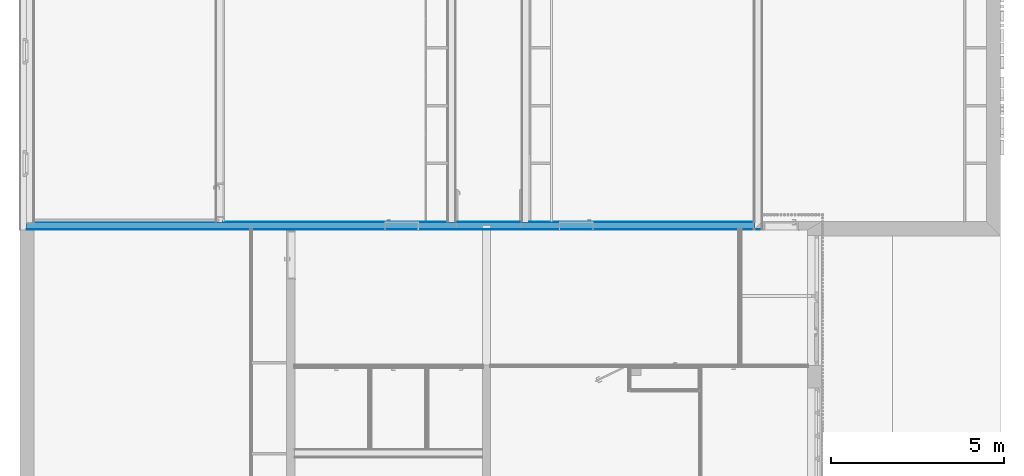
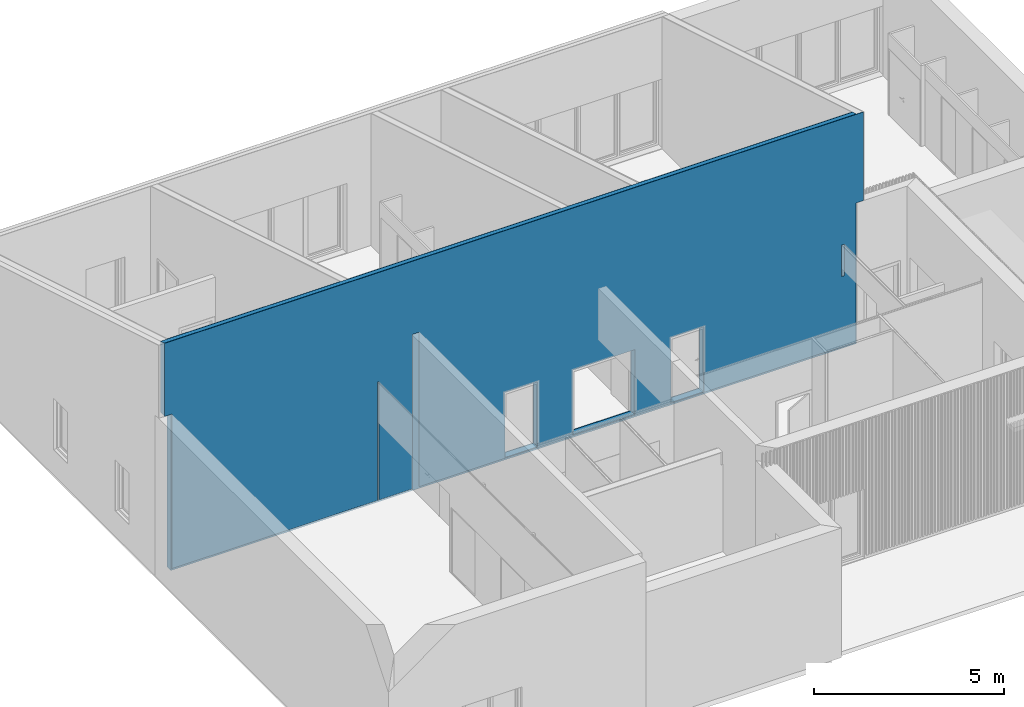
# One storey, part 24 of 34: 3 building element parts, 3 openings, 1 element without a shape of its own.
"""IFC2X3 building model written with IfcOpenShell, lengths in metres."""

from ifc_helpers import new_model, entity, si_unit, converted_unit, derived_unit, money_unit, direction, frame, origin_with_axes, origin_2d_with_axis, place, context, subcontext, project, spatial, polyline, rectangle, outline, extrude, boolean, faceted_brep, material, type_object, element, aggregate, save


model = new_model("IFC2X3")

# Units and contexts
model_context = context("Model", 3, precision=1e-05, world=origin_with_axes(), true_north=direction((0.0, 1.0)))
body_context = subcontext(model_context, "Body", "Model", "MODEL_VIEW")
ifc_project = project(units=[si_unit("LENGTHUNIT", "METRE"), si_unit("AREAUNIT", "SQUARE_METRE"), si_unit("VOLUMEUNIT", "CUBIC_METRE"), converted_unit("PLANEANGLEUNIT", "DEGREE", entity("IfcPlaneAngleMeasure", 0.0174532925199), si_unit("PLANEANGLEUNIT", "RADIAN"), dimensions=[0, 0, 0, 0, 0, 0, 0]), money_unit("CHF"), converted_unit("TIMEUNIT", "Year", entity("IfcTimeMeasure", 31556926.0), si_unit("TIMEUNIT", "SECOND"), dimensions=[0, 0, 1, 0, 0, 0, 0]), si_unit("MASSUNIT", "GRAM", prefix="KILO"), si_unit("THERMODYNAMICTEMPERATUREUNIT", "DEGREE_CELSIUS"), si_unit("LUMINOUSINTENSITYUNIT", "LUMEN"), si_unit("ENERGYUNIT", "JOULE", prefix="MEGA"), derived_unit("THERMALCONDUCTANCEUNIT", [(si_unit("POWERUNIT", "WATT"), 1), (si_unit("LENGTHUNIT", "METRE"), -1), (si_unit("THERMODYNAMICTEMPERATUREUNIT", "KELVIN"), -1)]), derived_unit("SPECIFICHEATCAPACITYUNIT", [(si_unit("ENERGYUNIT", "JOULE"), 1), (si_unit("MASSUNIT", "GRAM", prefix="KILO"), -1), (si_unit("THERMODYNAMICTEMPERATUREUNIT", "KELVIN"), -1)]), derived_unit("MASSDENSITYUNIT", [(si_unit("MASSUNIT", "GRAM", prefix="KILO"), 1), (si_unit("VOLUMEUNIT", "CUBIC_METRE"), -1)])], contexts=[model_context])

# Site, building, storey
site_placement = place(None, origin_with_axes())
site = spatial("IfcSite", under=ifc_project, at=site_placement, Name="Site", CompositionType="ELEMENT")
building_placement = place(site_placement, origin_with_axes())
building = spatial("IfcBuilding", under=site, at=building_placement, Name="Bâtiment", CompositionType="ELEMENT")
storey_placement = place(building_placement, origin_with_axes())
storey = spatial("IfcBuildingStorey", under=building, at=storey_placement, Name="Rez-de-chaussée", CompositionType="ELEMENT", Elevation=0.0)

# Wall, openings, building element parts
wall_type = type_object("IfcWallType", Name="Mur 20cm + enduit 2cm 240", PredefinedType="NOTDEFINED")
wall_placement = place(storey_placement, frame((32.1994697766, 15.07, -0.21), z_axis=(0.0, 0.0, 1.0), x_axis=(-1.0, 0.0, 0.0)))
wall = element("IfcWall", 1, at=wall_placement, inside=storey, type_object=wall_type, Name="MUR_EXT-005")
opening_1_placement = place(wall_placement, frame((5.255, 0.0, 0.21), z_axis=(0.0, 0.0, 1.0), x_axis=(1.0, 0.0, 0.0)))
element("IfcOpeningElement", 2, at=opening_1_placement, cuts=wall, Name="PORTE-PP90 A2 - PF1/2H", context=body_context, shape_type="SweptSolid", body=[
    extrude(rectangle(XDim=1.0, YDim=2.1, at=origin_2d_with_axis()), frame((0.0, -0.24, 1.05), z_axis=(0.0, -1.0, 0.0), x_axis=(1.0, 0.0, 0.0)), (0.0, 0.0, -1.0), 0.72),
    extrude(rectangle(XDim=1.1, YDim=2.15, at=origin_2d_with_axis()), frame((0.0, -0.05, 1.075), z_axis=(0.0, -1.0, 0.0), x_axis=(1.0, 0.0, 0.0)), (0.0, 0.0, 1.0), 0.24),
    extrude(rectangle(XDim=1.09, YDim=2.145, at=origin_2d_with_axis()), frame((0.0, 0.19, 1.0725), z_axis=(0.0, 1.0, 0.0), x_axis=(1.0, 0.0, 0.0)), (0.0, 0.0, 1.0), 0.24),
])
opening_2_placement = place(wall_placement, frame((7.79, 0.0, 0.21), z_axis=(0.0, 0.0, 1.0), x_axis=(1.0, 0.0, 0.0)))
element("IfcOpeningElement", 3, at=opening_2_placement, cuts=wall, Name="PP 90x2 - A2 - PF 1/2H", context=body_context, shape_type="SweptSolid", body=[
    extrude(rectangle(XDim=1.9, YDim=2.1, at=origin_2d_with_axis()), frame((0.0, -0.24, 1.05), z_axis=(0.0, -1.0, 0.0), x_axis=(1.0, 0.0, 0.0)), (0.0, 0.0, -1.0), 0.72),
    extrude(rectangle(XDim=2.0, YDim=2.15, at=origin_2d_with_axis()), frame((0.0, -0.05, 1.075), z_axis=(0.0, -1.0, 0.0), x_axis=(1.0, 0.0, 0.0)), (0.0, 0.0, 1.0), 0.24),
    extrude(rectangle(XDim=1.99, YDim=2.145, at=origin_2d_with_axis()), frame((0.0, 0.19, 1.0725), z_axis=(0.0, 1.0, 0.0), x_axis=(1.0, 0.0, 0.0)), (0.0, 0.0, 1.0), 0.24),
])
opening_3_placement = place(wall_placement, frame((10.3066603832, 0.0, 0.21), z_axis=(0.0, 0.0, 1.0), x_axis=(1.0, 0.0, 0.0)))
element("IfcOpeningElement", 4, at=opening_3_placement, cuts=wall, Name="PORTE-PP90 A2 - PF1/2H", context=body_context, shape_type="SweptSolid", body=[
    extrude(rectangle(XDim=1.0, YDim=2.1, at=origin_2d_with_axis()), frame((0.0, 0.24, 1.05), z_axis=(0.0, -1.0, 0.0), x_axis=(-1.0, 0.0, 0.0)), (0.0, 0.0, 1.0), 0.72),
    extrude(rectangle(XDim=1.1, YDim=2.15, at=origin_2d_with_axis()), frame((0.0, 0.19, 1.075), z_axis=(0.0, -1.0, 0.0), x_axis=(-1.0, 0.0, 0.0)), (0.0, 0.0, -1.0), 0.24),
    extrude(rectangle(XDim=1.09, YDim=2.145, at=origin_2d_with_axis()), frame((0.0, -0.05, 1.0725), z_axis=(0.0, 1.0, 0.0), x_axis=(-1.0, 0.0, 0.0)), (0.0, 0.0, -1.0), 0.24),
])
ifc_material_1 = material(Name="Finition int - Enduit plâtre")
building_element_part_1_placement = place(wall_placement, origin_with_axes())
building_element_part_1 = element("IfcBuildingElementPart", 5, at=building_element_part_1_placement, material=ifc_material_1, Name="Finition int - Enduit plâtre", context=body_context, shape_type="CSG", body=[
    boolean("DIFFERENCE", boolean("DIFFERENCE", boolean("DIFFERENCE", boolean("DIFFERENCE", boolean("DIFFERENCE", boolean("DIFFERENCE", boolean("DIFFERENCE", extrude(outline(polyline([(-0.12, -0.05), (21.34, -0.05), (21.34, -0.03), (-0.12, -0.03), (-0.12, -0.05)])), origin_with_axes(), (0.0, 0.0, 1.0), 7.64), faceted_brep([(21.34, -0.03, 7.64), (21.34, -0.03, 0.0), (-0.12, -0.03, 0.0), (-0.12, -0.03, 7.64), (20.95, -0.03, 5.17), (20.95, -0.03, 7.45421336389), (15.66, -0.03, 7.45421336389), (15.66, -0.03, 0.2), (20.93, -0.03, 0.2), (20.93, -0.03, 5.17), (15.46, -0.03, 0.2), (15.46, -0.03, 7.45421336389), (8.96, -0.03, 7.45421336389), (8.96, -0.03, 0.2), (8.76, -0.03, 0.2), (8.76, -0.03, 7.45421336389), (6.82, -0.03, 7.45421336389), (6.82, -0.03, 0.2), (6.62, -0.03, 0.2), (6.62, -0.03, 7.45421336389), (0.12, -0.03, 7.45421336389), (0.12, -0.03, 0.2), (21.34, -0.05, 7.64), (21.34, -0.05, 0.0), (-0.12, -0.05, 0.0), (-0.12, -0.05, 7.64), (20.95, -0.05, 5.17), (20.95, -0.05, 7.44821336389), (15.66, -0.05, 7.44821336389), (15.66, -0.05, 0.2), (20.93, -0.05, 0.2), (20.93, -0.05, 5.17), (15.46, -0.05, 0.2), (15.46, -0.05, 7.44821336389), (8.96, -0.05, 7.44821336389), (8.96, -0.05, 0.2), (8.76, -0.05, 0.2), (8.76, -0.05, 7.44821336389), (6.82, -0.05, 7.44821336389), (6.82, -0.05, 0.2), (6.62, -0.05, 0.2), (6.62, -0.05, 7.44821336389), (0.12, -0.05, 7.44821336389), (0.12, -0.05, 0.2)], [[[0, 1, 2, 3], [4, 5, 6, 7, 8, 9], [10, 11, 12, 13], [14, 15, 16, 17], [18, 19, 20, 21]], [[22, 23, 1, 0]], [[23, 24, 2, 1]], [[3, 2, 24, 25]], [[3, 25, 22, 0]], [[26, 27, 5, 4]], [[27, 28, 6, 5]], [[28, 29, 7, 6]], [[29, 30, 8, 7]], [[30, 31, 9, 8]], [[31, 26, 4, 9]], [[32, 33, 11, 10]], [[33, 34, 12, 11]], [[34, 35, 13, 12]], [[35, 32, 10, 13]], [[36, 37, 15, 14]], [[37, 38, 16, 15]], [[38, 39, 17, 16]], [[39, 36, 14, 17]], [[40, 41, 19, 18]], [[41, 42, 20, 19]], [[42, 43, 21, 20]], [[43, 40, 18, 21]], [[25, 24, 23, 22], [30, 29, 28, 27, 26, 31], [32, 35, 34, 33], [36, 39, 38, 37], [40, 43, 42, 41]]])), faceted_brep([(9.63, -0.03, 0.21), (9.58, -0.03, 0.21), (9.58, -0.03, 2.81), (9.63, -0.03, 2.81), (9.63, -0.05, 0.21), (9.58, -0.05, 0.21), (9.58, -0.05, 2.81), (9.63, -0.05, 2.81)], [[[0, 1, 2, 3]], [[4, 5, 1, 0]], [[5, 6, 2, 1]], [[6, 7, 3, 2]], [[7, 4, 0, 3]], [[4, 7, 6, 5]]])), faceted_brep([(6.0, -0.03, 0.21), (5.95, -0.03, 0.21), (5.95, -0.03, 2.81), (6.0, -0.03, 2.81), (6.0, -0.05, 0.21), (5.95, -0.05, 0.21), (5.95, -0.05, 2.81), (6.0, -0.05, 2.81)], [[[0, 1, 2, 3]], [[4, 5, 1, 0]], [[5, 6, 2, 1]], [[6, 7, 3, 2]], [[7, 4, 0, 3]], [[4, 7, 6, 5]]])), faceted_brep([(21.34, 0.17, 7.64), (21.34, 0.17, 0.0), (-0.12, 0.17, 0.0), (-0.12, 0.17, 7.64), (21.15, 0.17, 5.17), (21.15, 0.17, 7.51421336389), (0.1, 0.17, 7.51421336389), (0.1, 0.17, 0.13), (20.95, 0.17, 0.13), (20.95, 0.17, 5.17), (21.34, -0.03, 7.64), (21.34, -0.03, 0.0), (-0.12, -0.03, 0.0), (-0.12, -0.03, 7.64), (21.15, -0.03, 5.17), (21.15, -0.03, 7.45421336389), (0.12, -0.03, 7.45421336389), (0.1, -0.03, 7.45421336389), (20.95, -0.03, 7.45421336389), (15.66, -0.03, 7.45421336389), (15.46, -0.03, 7.45421336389), (8.96, -0.03, 7.45421336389), (8.76, -0.03, 7.45421336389), (6.82, -0.03, 7.45421336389), (6.62, -0.03, 7.45421336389), (0.1, -0.03, 0.13), (20.95, -0.03, 0.13), (20.95, 0.0, 0.13), (20.95, 0.0, 5.17), (20.95, -0.03, 5.17)], [[[0, 1, 2, 3], [4, 5, 6, 7, 8, 9]], [[10, 11, 1, 0]], [[11, 12, 2, 1]], [[3, 2, 12, 13]], [[3, 13, 10, 0]], [[14, 15, 5, 4]], [[16, 17, 6, 5, 15, 18, 19, 20, 21, 22, 23, 24]], [[17, 25, 7, 6]], [[25, 26, 27, 8, 7]], [[9, 8, 27, 28]], [[29, 14, 4, 9, 28]], [[13, 12, 11, 10], [26, 25, 17, 16, 24, 23, 22, 21, 20, 19, 18, 15, 14, 29]], [[26, 29, 28, 27]]])), faceted_brep([(14.68, 0.19, 0.21), (14.63, 0.19, 0.21), (14.63, 0.19, 4.01), (14.68, 0.19, 4.01), (14.68, 0.17, 0.21), (14.63, 0.17, 0.21), (14.63, 0.17, 4.01), (14.68, 0.17, 4.01)], [[[0, 1, 2, 3]], [[4, 5, 1, 0]], [[5, 6, 2, 1]], [[6, 7, 3, 2]], [[7, 4, 0, 3]], [[4, 7, 6, 5]]])), faceted_brep([(0.57, 0.19, 2.46), (0.47, 0.19, 2.46), (0.47, 0.19, 3.47022608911), (0.57, 0.19, 3.47022608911), (0.57, 0.17, 2.46), (0.47, 0.17, 2.46), (0.47, 0.17, 3.47022608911), (0.57, 0.17, 3.47022608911)], [[[0, 1, 2, 3]], [[4, 5, 1, 0]], [[5, 6, 2, 1]], [[6, 7, 3, 2]], [[7, 4, 0, 3]], [[4, 7, 6, 5]]])), faceted_brep([(21.34, 0.19, 7.64), (21.34, 0.19, 0.0), (-0.12, 0.19, 0.0), (-0.12, 0.19, 7.64), (21.15, 0.189999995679, 5.17), (21.15, 0.189999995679, 7.52021336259), (-0.1, 0.189999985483, 7.52021335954), (-0.1, 0.189999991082, 4.67), (0.12, 0.189999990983, 4.67), (0.12, 0.189999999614, 0.2), (13.41, 0.19, 0.2), (13.41, 0.19, 5.17), (13.61, 0.19, 5.17), (13.61, 0.19, 0.2), (20.93, 0.19, 0.2), (20.93, 0.19, 5.17), (21.34, 0.17, 7.64), (21.34, 0.17, 0.0), (-0.12, 0.17, 0.0), (-0.12, 0.17, 7.64), (21.15, 0.17, 5.17), (21.15, 0.17, 7.51421336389), (0.1, 0.17, 7.51421336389), (-0.1, 0.17, 7.51421336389), (-0.1, 0.17, 4.67), (0.12, 0.17, 4.67), (0.12, 0.17, 0.2), (13.41, 0.17, 0.2), (13.41, 0.17, 5.17), (13.61, 0.17, 5.17), (13.61, 0.17, 0.2), (20.93, 0.17, 0.2), (20.93, 0.17, 5.17)], [[[0, 1, 2, 3], [4, 5, 6, 7, 8, 9, 10, 11, 12, 13, 14, 15]], [[16, 17, 1, 0]], [[17, 18, 2, 1]], [[3, 2, 18, 19]], [[3, 19, 16, 0]], [[5, 4, 20, 21]], [[22, 23, 6, 5, 21]], [[23, 24, 7, 6]], [[24, 25, 8, 7]], [[25, 26, 9, 8]], [[26, 27, 10, 9]], [[27, 28, 11, 10]], [[28, 29, 12, 11]], [[29, 30, 13, 12]], [[30, 31, 14, 13]], [[31, 32, 15, 14]], [[32, 20, 4, 15]], [[19, 18, 17, 16], [25, 24, 23, 22, 21, 20, 32, 31, 30, 29, 28, 27, 26]]])),
])
ifc_material_2 = material(Name="Béton armé (Coulé)")
building_element_part_2_placement = place(wall_placement, origin_with_axes())
building_element_part_2 = element("IfcBuildingElementPart", 6, at=building_element_part_2_placement, material=ifc_material_2, Name="Béton armé (Coulé)", context=body_context, shape_type="CSG", body=[
    boolean("DIFFERENCE", boolean("DIFFERENCE", boolean("DIFFERENCE", boolean("DIFFERENCE", boolean("DIFFERENCE", boolean("DIFFERENCE", boolean("DIFFERENCE", extrude(outline(polyline([(-0.12, -0.03), (21.34, -0.03), (21.34, 0.17), (-0.12, 0.17), (-0.12, -0.03)])), origin_with_axes(), (0.0, 0.0, 1.0), 7.64), faceted_brep([(21.34, -0.03, 7.64), (21.34, -0.03, 0.0), (-0.12, -0.03, 0.0), (-0.12, -0.03, 7.64), (20.95, -0.03, 5.17), (20.95, -0.03, 7.45421336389), (15.66, -0.03, 7.45421336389), (15.66, -0.03, 0.2), (20.93, -0.03, 0.2), (20.93, -0.03, 5.17), (15.46, -0.03, 0.2), (15.46, -0.03, 7.45421336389), (8.96, -0.03, 7.45421336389), (8.96, -0.03, 0.2), (8.76, -0.03, 0.2), (8.76, -0.03, 7.45421336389), (6.82, -0.03, 7.45421336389), (6.82, -0.03, 0.2), (6.62, -0.03, 0.2), (6.62, -0.03, 7.45421336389), (0.12, -0.03, 7.45421336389), (0.12, -0.03, 0.2), (21.34, -0.05, 7.64), (21.34, -0.05, 0.0), (-0.12, -0.05, 0.0), (-0.12, -0.05, 7.64), (20.95, -0.05, 5.17), (20.95, -0.05, 7.44821336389), (15.66, -0.05, 7.44821336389), (15.66, -0.05, 0.2), (20.93, -0.05, 0.2), (20.93, -0.05, 5.17), (15.46, -0.05, 0.2), (15.46, -0.05, 7.44821336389), (8.96, -0.05, 7.44821336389), (8.96, -0.05, 0.2), (8.76, -0.05, 0.2), (8.76, -0.05, 7.44821336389), (6.82, -0.05, 7.44821336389), (6.82, -0.05, 0.2), (6.62, -0.05, 0.2), (6.62, -0.05, 7.44821336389), (0.12, -0.05, 7.44821336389), (0.12, -0.05, 0.2)], [[[0, 1, 2, 3], [4, 5, 6, 7, 8, 9], [10, 11, 12, 13], [14, 15, 16, 17], [18, 19, 20, 21]], [[22, 23, 1, 0]], [[23, 24, 2, 1]], [[3, 2, 24, 25]], [[3, 25, 22, 0]], [[26, 27, 5, 4]], [[27, 28, 6, 5]], [[28, 29, 7, 6]], [[29, 30, 8, 7]], [[30, 31, 9, 8]], [[31, 26, 4, 9]], [[32, 33, 11, 10]], [[33, 34, 12, 11]], [[34, 35, 13, 12]], [[35, 32, 10, 13]], [[36, 37, 15, 14]], [[37, 38, 16, 15]], [[38, 39, 17, 16]], [[39, 36, 14, 17]], [[40, 41, 19, 18]], [[41, 42, 20, 19]], [[42, 43, 21, 20]], [[43, 40, 18, 21]], [[25, 24, 23, 22], [30, 29, 28, 27, 26, 31], [32, 35, 34, 33], [36, 39, 38, 37], [40, 43, 42, 41]]])), faceted_brep([(9.63, -0.03, 0.21), (9.58, -0.03, 0.21), (9.58, -0.03, 2.81), (9.63, -0.03, 2.81), (9.63, -0.05, 0.21), (9.58, -0.05, 0.21), (9.58, -0.05, 2.81), (9.63, -0.05, 2.81)], [[[0, 1, 2, 3]], [[4, 5, 1, 0]], [[5, 6, 2, 1]], [[6, 7, 3, 2]], [[7, 4, 0, 3]], [[4, 7, 6, 5]]])), faceted_brep([(6.0, -0.03, 0.21), (5.95, -0.03, 0.21), (5.95, -0.03, 2.81), (6.0, -0.03, 2.81), (6.0, -0.05, 0.21), (5.95, -0.05, 0.21), (5.95, -0.05, 2.81), (6.0, -0.05, 2.81)], [[[0, 1, 2, 3]], [[4, 5, 1, 0]], [[5, 6, 2, 1]], [[6, 7, 3, 2]], [[7, 4, 0, 3]], [[4, 7, 6, 5]]])), faceted_brep([(21.34, 0.17, 7.64), (21.34, 0.17, 0.0), (-0.12, 0.17, 0.0), (-0.12, 0.17, 7.64), (21.15, 0.17, 5.17), (21.15, 0.17, 7.51421336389), (0.1, 0.17, 7.51421336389), (0.1, 0.17, 0.13), (20.95, 0.17, 0.13), (20.95, 0.17, 5.17), (21.34, -0.03, 7.64), (21.34, -0.03, 0.0), (-0.12, -0.03, 0.0), (-0.12, -0.03, 7.64), (21.15, -0.03, 5.17), (21.15, -0.03, 7.45421336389), (0.12, -0.03, 7.45421336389), (0.1, -0.03, 7.45421336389), (20.95, -0.03, 7.45421336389), (15.66, -0.03, 7.45421336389), (15.46, -0.03, 7.45421336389), (8.96, -0.03, 7.45421336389), (8.76, -0.03, 7.45421336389), (6.82, -0.03, 7.45421336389), (6.62, -0.03, 7.45421336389), (0.1, -0.03, 0.13), (20.95, -0.03, 0.13), (20.95, 0.0, 0.13), (20.95, 0.0, 5.17), (20.95, -0.03, 5.17)], [[[0, 1, 2, 3], [4, 5, 6, 7, 8, 9]], [[10, 11, 1, 0]], [[11, 12, 2, 1]], [[3, 2, 12, 13]], [[3, 13, 10, 0]], [[14, 15, 5, 4]], [[16, 17, 6, 5, 15, 18, 19, 20, 21, 22, 23, 24]], [[17, 25, 7, 6]], [[25, 26, 27, 8, 7]], [[9, 8, 27, 28]], [[29, 14, 4, 9, 28]], [[13, 12, 11, 10], [26, 25, 17, 16, 24, 23, 22, 21, 20, 19, 18, 15, 14, 29]], [[26, 29, 28, 27]]])), faceted_brep([(14.68, 0.19, 0.21), (14.63, 0.19, 0.21), (14.63, 0.19, 4.01), (14.68, 0.19, 4.01), (14.68, 0.17, 0.21), (14.63, 0.17, 0.21), (14.63, 0.17, 4.01), (14.68, 0.17, 4.01)], [[[0, 1, 2, 3]], [[4, 5, 1, 0]], [[5, 6, 2, 1]], [[6, 7, 3, 2]], [[7, 4, 0, 3]], [[4, 7, 6, 5]]])), faceted_brep([(0.57, 0.19, 2.46), (0.47, 0.19, 2.46), (0.47, 0.19, 3.47022608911), (0.57, 0.19, 3.47022608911), (0.57, 0.17, 2.46), (0.47, 0.17, 2.46), (0.47, 0.17, 3.47022608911), (0.57, 0.17, 3.47022608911)], [[[0, 1, 2, 3]], [[4, 5, 1, 0]], [[5, 6, 2, 1]], [[6, 7, 3, 2]], [[7, 4, 0, 3]], [[4, 7, 6, 5]]])), faceted_brep([(21.34, 0.19, 7.64), (21.34, 0.19, 0.0), (-0.12, 0.19, 0.0), (-0.12, 0.19, 7.64), (21.15, 0.189999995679, 5.17), (21.15, 0.189999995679, 7.52021336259), (-0.1, 0.189999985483, 7.52021335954), (-0.1, 0.189999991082, 4.67), (0.12, 0.189999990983, 4.67), (0.12, 0.189999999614, 0.2), (13.41, 0.19, 0.2), (13.41, 0.19, 5.17), (13.61, 0.19, 5.17), (13.61, 0.19, 0.2), (20.93, 0.19, 0.2), (20.93, 0.19, 5.17), (21.34, 0.17, 7.64), (21.34, 0.17, 0.0), (-0.12, 0.17, 0.0), (-0.12, 0.17, 7.64), (21.15, 0.17, 5.17), (21.15, 0.17, 7.51421336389), (0.1, 0.17, 7.51421336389), (-0.1, 0.17, 7.51421336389), (-0.1, 0.17, 4.67), (0.12, 0.17, 4.67), (0.12, 0.17, 0.2), (13.41, 0.17, 0.2), (13.41, 0.17, 5.17), (13.61, 0.17, 5.17), (13.61, 0.17, 0.2), (20.93, 0.17, 0.2), (20.93, 0.17, 5.17)], [[[0, 1, 2, 3], [4, 5, 6, 7, 8, 9, 10, 11, 12, 13, 14, 15]], [[16, 17, 1, 0]], [[17, 18, 2, 1]], [[3, 2, 18, 19]], [[3, 19, 16, 0]], [[5, 4, 20, 21]], [[22, 23, 6, 5, 21]], [[23, 24, 7, 6]], [[24, 25, 8, 7]], [[25, 26, 9, 8]], [[26, 27, 10, 9]], [[27, 28, 11, 10]], [[28, 29, 12, 11]], [[29, 30, 13, 12]], [[30, 31, 14, 13]], [[31, 32, 15, 14]], [[32, 20, 4, 15]], [[19, 18, 17, 16], [25, 24, 23, 22, 21, 20, 32, 31, 30, 29, 28, 27, 26]]])),
])
building_element_part_3_placement = place(wall_placement, origin_with_axes())
building_element_part_3 = element("IfcBuildingElementPart", 7, at=building_element_part_3_placement, material=ifc_material_1, Name="Finition int - Enduit plâtre", context=body_context, shape_type="CSG", body=[
    boolean("DIFFERENCE", boolean("DIFFERENCE", boolean("DIFFERENCE", boolean("DIFFERENCE", boolean("DIFFERENCE", boolean("DIFFERENCE", boolean("DIFFERENCE", extrude(outline(polyline([(-0.12, 0.17), (21.34, 0.17), (21.34, 0.19), (-0.12, 0.19), (-0.12, 0.17)])), origin_with_axes(), (0.0, 0.0, 1.0), 7.64), faceted_brep([(21.34, -0.03, 7.64), (21.34, -0.03, 0.0), (-0.12, -0.03, 0.0), (-0.12, -0.03, 7.64), (20.95, -0.03, 5.17), (20.95, -0.03, 7.45421336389), (15.66, -0.03, 7.45421336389), (15.66, -0.03, 0.2), (20.93, -0.03, 0.2), (20.93, -0.03, 5.17), (15.46, -0.03, 0.2), (15.46, -0.03, 7.45421336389), (8.96, -0.03, 7.45421336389), (8.96, -0.03, 0.2), (8.76, -0.03, 0.2), (8.76, -0.03, 7.45421336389), (6.82, -0.03, 7.45421336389), (6.82, -0.03, 0.2), (6.62, -0.03, 0.2), (6.62, -0.03, 7.45421336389), (0.12, -0.03, 7.45421336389), (0.12, -0.03, 0.2), (21.34, -0.05, 7.64), (21.34, -0.05, 0.0), (-0.12, -0.05, 0.0), (-0.12, -0.05, 7.64), (20.95, -0.05, 5.17), (20.95, -0.05, 7.44821336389), (15.66, -0.05, 7.44821336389), (15.66, -0.05, 0.2), (20.93, -0.05, 0.2), (20.93, -0.05, 5.17), (15.46, -0.05, 0.2), (15.46, -0.05, 7.44821336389), (8.96, -0.05, 7.44821336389), (8.96, -0.05, 0.2), (8.76, -0.05, 0.2), (8.76, -0.05, 7.44821336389), (6.82, -0.05, 7.44821336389), (6.82, -0.05, 0.2), (6.62, -0.05, 0.2), (6.62, -0.05, 7.44821336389), (0.12, -0.05, 7.44821336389), (0.12, -0.05, 0.2)], [[[0, 1, 2, 3], [4, 5, 6, 7, 8, 9], [10, 11, 12, 13], [14, 15, 16, 17], [18, 19, 20, 21]], [[22, 23, 1, 0]], [[23, 24, 2, 1]], [[3, 2, 24, 25]], [[3, 25, 22, 0]], [[26, 27, 5, 4]], [[27, 28, 6, 5]], [[28, 29, 7, 6]], [[29, 30, 8, 7]], [[30, 31, 9, 8]], [[31, 26, 4, 9]], [[32, 33, 11, 10]], [[33, 34, 12, 11]], [[34, 35, 13, 12]], [[35, 32, 10, 13]], [[36, 37, 15, 14]], [[37, 38, 16, 15]], [[38, 39, 17, 16]], [[39, 36, 14, 17]], [[40, 41, 19, 18]], [[41, 42, 20, 19]], [[42, 43, 21, 20]], [[43, 40, 18, 21]], [[25, 24, 23, 22], [30, 29, 28, 27, 26, 31], [32, 35, 34, 33], [36, 39, 38, 37], [40, 43, 42, 41]]])), faceted_brep([(9.63, -0.03, 0.21), (9.58, -0.03, 0.21), (9.58, -0.03, 2.81), (9.63, -0.03, 2.81), (9.63, -0.05, 0.21), (9.58, -0.05, 0.21), (9.58, -0.05, 2.81), (9.63, -0.05, 2.81)], [[[0, 1, 2, 3]], [[4, 5, 1, 0]], [[5, 6, 2, 1]], [[6, 7, 3, 2]], [[7, 4, 0, 3]], [[4, 7, 6, 5]]])), faceted_brep([(6.0, -0.03, 0.21), (5.95, -0.03, 0.21), (5.95, -0.03, 2.81), (6.0, -0.03, 2.81), (6.0, -0.05, 0.21), (5.95, -0.05, 0.21), (5.95, -0.05, 2.81), (6.0, -0.05, 2.81)], [[[0, 1, 2, 3]], [[4, 5, 1, 0]], [[5, 6, 2, 1]], [[6, 7, 3, 2]], [[7, 4, 0, 3]], [[4, 7, 6, 5]]])), faceted_brep([(21.34, 0.17, 7.64), (21.34, 0.17, 0.0), (-0.12, 0.17, 0.0), (-0.12, 0.17, 7.64), (21.15, 0.17, 5.17), (21.15, 0.17, 7.51421336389), (0.1, 0.17, 7.51421336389), (0.1, 0.17, 0.13), (20.95, 0.17, 0.13), (20.95, 0.17, 5.17), (21.34, -0.03, 7.64), (21.34, -0.03, 0.0), (-0.12, -0.03, 0.0), (-0.12, -0.03, 7.64), (21.15, -0.03, 5.17), (21.15, -0.03, 7.45421336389), (0.12, -0.03, 7.45421336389), (0.1, -0.03, 7.45421336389), (20.95, -0.03, 7.45421336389), (15.66, -0.03, 7.45421336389), (15.46, -0.03, 7.45421336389), (8.96, -0.03, 7.45421336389), (8.76, -0.03, 7.45421336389), (6.82, -0.03, 7.45421336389), (6.62, -0.03, 7.45421336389), (0.1, -0.03, 0.13), (20.95, -0.03, 0.13), (20.95, 0.0, 0.13), (20.95, 0.0, 5.17), (20.95, -0.03, 5.17)], [[[0, 1, 2, 3], [4, 5, 6, 7, 8, 9]], [[10, 11, 1, 0]], [[11, 12, 2, 1]], [[3, 2, 12, 13]], [[3, 13, 10, 0]], [[14, 15, 5, 4]], [[16, 17, 6, 5, 15, 18, 19, 20, 21, 22, 23, 24]], [[17, 25, 7, 6]], [[25, 26, 27, 8, 7]], [[9, 8, 27, 28]], [[29, 14, 4, 9, 28]], [[13, 12, 11, 10], [26, 25, 17, 16, 24, 23, 22, 21, 20, 19, 18, 15, 14, 29]], [[26, 29, 28, 27]]])), faceted_brep([(14.68, 0.19, 0.21), (14.63, 0.19, 0.21), (14.63, 0.19, 4.01), (14.68, 0.19, 4.01), (14.68, 0.17, 0.21), (14.63, 0.17, 0.21), (14.63, 0.17, 4.01), (14.68, 0.17, 4.01)], [[[0, 1, 2, 3]], [[4, 5, 1, 0]], [[5, 6, 2, 1]], [[6, 7, 3, 2]], [[7, 4, 0, 3]], [[4, 7, 6, 5]]])), faceted_brep([(0.57, 0.19, 2.46), (0.47, 0.19, 2.46), (0.47, 0.19, 3.47022608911), (0.57, 0.19, 3.47022608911), (0.57, 0.17, 2.46), (0.47, 0.17, 2.46), (0.47, 0.17, 3.47022608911), (0.57, 0.17, 3.47022608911)], [[[0, 1, 2, 3]], [[4, 5, 1, 0]], [[5, 6, 2, 1]], [[6, 7, 3, 2]], [[7, 4, 0, 3]], [[4, 7, 6, 5]]])), faceted_brep([(21.34, 0.19, 7.64), (21.34, 0.19, 0.0), (-0.12, 0.19, 0.0), (-0.12, 0.19, 7.64), (21.15, 0.189999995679, 5.17), (21.15, 0.189999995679, 7.52021336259), (-0.1, 0.189999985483, 7.52021335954), (-0.1, 0.189999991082, 4.67), (0.12, 0.189999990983, 4.67), (0.12, 0.189999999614, 0.2), (13.41, 0.19, 0.2), (13.41, 0.19, 5.17), (13.61, 0.19, 5.17), (13.61, 0.19, 0.2), (20.93, 0.19, 0.2), (20.93, 0.19, 5.17), (21.34, 0.17, 7.64), (21.34, 0.17, 0.0), (-0.12, 0.17, 0.0), (-0.12, 0.17, 7.64), (21.15, 0.17, 5.17), (21.15, 0.17, 7.51421336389), (0.1, 0.17, 7.51421336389), (-0.1, 0.17, 7.51421336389), (-0.1, 0.17, 4.67), (0.12, 0.17, 4.67), (0.12, 0.17, 0.2), (13.41, 0.17, 0.2), (13.41, 0.17, 5.17), (13.61, 0.17, 5.17), (13.61, 0.17, 0.2), (20.93, 0.17, 0.2), (20.93, 0.17, 5.17)], [[[0, 1, 2, 3], [4, 5, 6, 7, 8, 9, 10, 11, 12, 13, 14, 15]], [[16, 17, 1, 0]], [[17, 18, 2, 1]], [[3, 2, 18, 19]], [[3, 19, 16, 0]], [[5, 4, 20, 21]], [[22, 23, 6, 5, 21]], [[23, 24, 7, 6]], [[24, 25, 8, 7]], [[25, 26, 9, 8]], [[26, 27, 10, 9]], [[27, 28, 11, 10]], [[28, 29, 12, 11]], [[29, 30, 13, 12]], [[30, 31, 14, 13]], [[31, 32, 15, 14]], [[32, 20, 4, 15]], [[19, 18, 17, 16], [25, 24, 23, 22, 21, 20, 32, 31, 30, 29, 28, 27, 26]]])),
])
aggregate(wall, [building_element_part_1, building_element_part_2, building_element_part_3])

save(model, "model.ifc")
